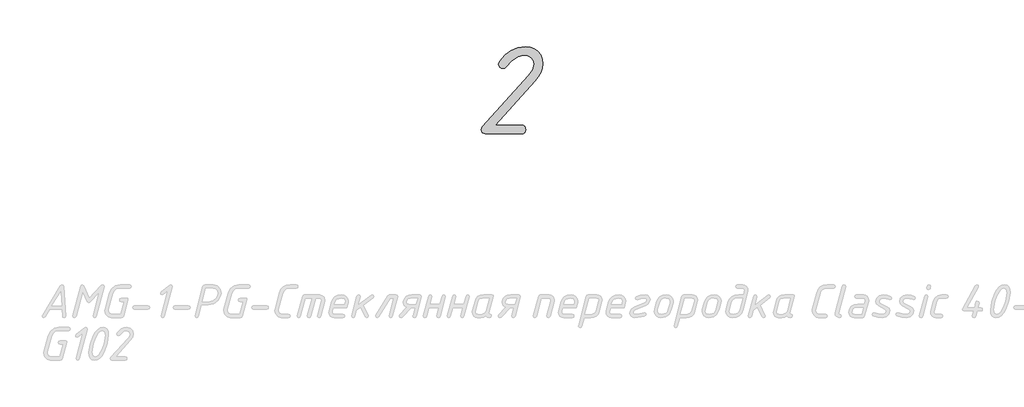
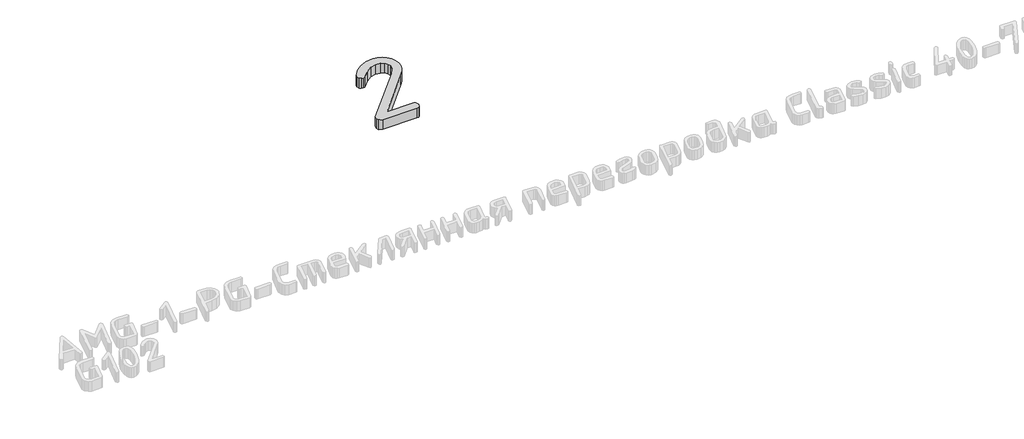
# One storey, part 14 of 22: 1 proxy.
"""IFC4 building model written with IfcOpenShell, lengths in millimetres."""

import ifcopenshell
import ifcopenshell.guid

model = None  # the IFC model being written
_history = None  # IfcOwnerHistory: only IFC2X3 demands one
_inside = {}  # id of a spatial element -> (the spatial element, [elements in it])
_under = {}  # id of a project, library or spatial element -> (it, [spatial elements below it])
_declared = {}  # id of a project -> (the project, [libraries it declares])
_typed = {}  # id of a type object -> (the type object, [elements of that type])
_made_of = {}  # id of a material, layer set ... -> (it, [elements and type objects made of it])


def new_model(schema):
    """Start an empty IFC model of exactly this schema.

    Asked for "IFC4X3", IfcOpenShell would pick the latest addendum, in which some entities
    have other attributes; the version numbers below select the first issue.
    IFC2X3 requires an IfcOwnerHistory on every rooted entity: one is made here for all.
    """
    global model, _history
    if schema == "IFC4X3":
        model = ifcopenshell.file(schema_version=(4, 3, 0, 0))
    else:
        model = ifcopenshell.file(schema=schema)
    _inside.clear()
    _under.clear()
    _declared.clear()
    _typed.clear()
    _made_of.clear()
    _history = None
    if model.schema == "IFC2X3":
        org = make("IfcOrganization", Name="unknown")
        user = make(
            "IfcPersonAndOrganization",
            ThePerson=make("IfcPerson", FamilyName="unknown"),
            TheOrganization=org,
        )
        app = make(
            "IfcApplication",
            ApplicationDeveloper=org,
            Version="unknown",
            ApplicationFullName="unknown",
            ApplicationIdentifier="unknown",
        )
        _history = make(
            "IfcOwnerHistory",
            OwningUser=user,
            OwningApplication=app,
            ChangeAction="ADDED",
            CreationDate=0,
        )
    return model


def make(cls, **values):
    """One entity of the class cls with the attributes given. An attribute that is None is left unset."""
    return model.create_entity(
        cls, **{name: value for name, value in values.items() if value is not None}
    )


def rooted(cls, **values):
    """An entity with a GlobalId (a new one), such as an element, a storey or a relation."""
    return make(cls, GlobalId=ifcopenshell.guid.new(), OwnerHistory=_history, **values)


def si_unit(unit_type, name, prefix=None):
    """IfcSIUnit, for example si_unit("LENGTHUNIT", "METRE", prefix="MILLI")."""
    return make("IfcSIUnit", UnitType=unit_type, Prefix=prefix, Name=name)


def assignment(units):
    """IfcUnitAssignment: the units of a project."""
    return None if units is None else make("IfcUnitAssignment", Units=units)


def point(xyz):
    """IfcCartesianPoint."""
    return None if xyz is None else make("IfcCartesianPoint", Coordinates=xyz)


def direction(xyz):
    """IfcDirection."""
    return None if xyz is None else make("IfcDirection", DirectionRatios=xyz)


def frame(location, z_axis=None, x_axis=None):
    """IfcAxis2Placement3D, a coordinate frame: its origin and axes. An axis left out is left unset."""
    return make(
        "IfcAxis2Placement3D",
        Location=point(location),
        Axis=direction(z_axis),
        RefDirection=direction(x_axis),
    )


def origin():
    """The frame at (0, 0, 0) with its axes left unset."""
    return frame((0.0, 0.0, 0.0))


def origin_with_axes():
    """The frame at (0, 0, 0) with the z axis (0, 0, 1) and the x axis (1, 0, 0) written out."""
    return frame((0.0, 0.0, 0.0), z_axis=(0.0, 0.0, 1.0), x_axis=(1.0, 0.0, 0.0))


def place(relative_to, where):
    """IfcLocalPlacement: puts the frame where relative to a parent placement (None: the world)."""
    return make(
        "IfcLocalPlacement", PlacementRelTo=relative_to, RelativePlacement=where
    )


def context(
    kind, dimensions, precision=None, world=None, true_north=None, identifier=None
):
    """IfcGeometricRepresentationContext, for example the 3D "Model" context."""
    return make(
        "IfcGeometricRepresentationContext",
        ContextIdentifier=identifier,
        ContextType=kind,
        CoordinateSpaceDimension=dimensions,
        Precision=precision,
        WorldCoordinateSystem=world,
        TrueNorth=true_north,
    )


def project(units=None, contexts=None):
    """IfcProject with its units and contexts."""
    return rooted(
        "IfcProject",
        Name="project",
        RepresentationContexts=contexts,
        UnitsInContext=assignment(units),
    )


def spatial(cls, under=None, at=None, **own):
    """A site, building, storey or space (cls), placed at a placement, below another one or the project."""
    s = rooted(cls, ObjectPlacement=at, **own)
    if under is not None:
        _under.setdefault(under.id(), (under, []))[1].append(s)
    return s


def polyline(points):
    """IfcPolyline through the points."""
    return make("IfcPolyline", Points=[point(p) for p in points])


def outline(outer, holes=None, kind="AREA"):
    """IfcArbitraryClosedProfileDef: a profile drawn as a closed curve; with holes, ...WithVoids."""
    if holes is None:
        return make("IfcArbitraryClosedProfileDef", ProfileType=kind, OuterCurve=outer)
    return make(
        "IfcArbitraryProfileDefWithVoids",
        ProfileType=kind,
        OuterCurve=outer,
        InnerCurves=holes,
    )


def extrude(swept, where, along, depth):
    """IfcExtrudedAreaSolid: the profile swept, set in the frame where, extruded along a direction by depth."""
    return make(
        "IfcExtrudedAreaSolid",
        SweptArea=swept,
        Position=where,
        ExtrudedDirection=direction(along),
        Depth=depth,
    )


def shape(context_of_items, identifier, shape_type, items):
    """IfcShapeRepresentation: the items that make up one representation, for example the "Body"."""
    return make(
        "IfcShapeRepresentation",
        ContextOfItems=context_of_items,
        RepresentationIdentifier=identifier,
        RepresentationType=shape_type,
        Items=items,
    )


def made_of(thing, what):
    """Note that an element or type object is made of a material, layer set ...; save() writes the relation."""
    if what is not None:
        _made_of.setdefault(what.id(), (what, []))[1].append(thing)
    return thing


def element(
    cls,
    number,
    at=None,
    inside=None,
    cuts=None,
    type_object=None,
    material=None,
    context=None,
    identifier="Body",
    shape_type=None,
    held_by="IfcProductDefinitionShape",
    body=None,
    shapes=None,
    **own,
):
    """One element of the class cls, such as IfcWall. Its Tag is "e" and its number.

    at: its placement. inside: the storey or other place that contains it. cuts: it is an
    opening in that element (IfcRelVoidsElement). A single representation is given by context,
    identifier, shape_type and body (its items); several are given by shapes. held_by: the class
    of the entity that holds the representations. save() writes the other relations.
    """
    e = rooted(cls, Tag="e%d" % number, ObjectPlacement=at, **own)
    if body is not None:
        shapes = [shape(context, identifier, shape_type, body)]
    if shapes is not None:
        e.Representation = make(held_by, Representations=shapes)
    if inside is not None:
        _inside.setdefault(inside.id(), (inside, []))[1].append(e)
    if cuts is not None:
        rooted(
            "IfcRelVoidsElement", RelatingBuildingElement=cuts, RelatedOpeningElement=e
        )
    if type_object is not None:
        _typed.setdefault(type_object.id(), (type_object, []))[1].append(e)
    return made_of(e, material)


def aggregate(whole, parts):
    """IfcRelAggregates: a whole, such as a stair, and the parts it consists of."""
    return rooted("IfcRelAggregates", RelatingObject=whole, RelatedObjects=parts)


def save(model, path):
    """Write the relations noted so far, then the file.

    IfcRelAggregates (storeys below a building ...), IfcRelContainedInSpatialStructure (elements
    in a storey), IfcRelDefinesByType, IfcRelAssociatesMaterial and IfcRelDeclares: one each for
    every whole, place, type object, material and project.
    """
    for whole, parts in _under.values():
        aggregate(whole, parts)
    for where, things in _inside.values():
        rooted(
            "IfcRelContainedInSpatialStructure",
            RelatedElements=things,
            RelatingStructure=where,
        )
    for kind, things in _typed.values():
        rooted("IfcRelDefinesByType", RelatedObjects=things, RelatingType=kind)
    for what, things in _made_of.values():
        rooted("IfcRelAssociatesMaterial", RelatedObjects=things, RelatingMaterial=what)
    for by, libraries in _declared.values():
        rooted("IfcRelDeclares", RelatingContext=by, RelatedDefinitions=libraries)
    model.write(path)


model = new_model("IFC4")

# Units and contexts
model_context = context("Model", 3, world=origin())
ifc_project = project(units=[si_unit("LENGTHUNIT", "METRE", prefix="MILLI")], contexts=[model_context])

# Site, building, storey
site = spatial("IfcSite", under=ifc_project)
building = spatial("IfcBuilding", under=site)
storey = spatial("IfcBuildingStorey", under=building, Name="Уровень 1", Elevation=0.0)

# Proxy
placement = place(None, origin())
element("IfcBuildingElementProxy", 1, Name="100", ObjectType="100", at=placement, inside=storey, context=model_context, shape_type="SweptSolid", body=[
    extrude(outline(polyline([(-34110.5937312, -8779.4855473), (-34117.1724283, -8784.9189651), (-34125.4024583, -8786.7301044), (-34133.0332143, -8785.2119436), (-34139.5186911, -8780.6574609), (-34145.4315282, -8766.7010346), (-34140.5307983, -8753.7034467), (-34114.1893753, -8724.2724332), (-34089.0731348, -8704.1634602), (-34057.165122, -8690.420109), (-34020.8890673, -8685.838992), (-33999.6081806, -8688.2693811), (-33981.0440028, -8695.5605485), (-33965.196534, -8707.7124941), (-33952.0657741, -8724.725218), (-33943.6759377, -8744.0085246), (-33940.8793255, -8765.2095081), (-33943.1632255, -8785.671387), (-33950.0149252, -8805.9335078), (-33961.4344248, -8825.9958707), (-33977.4217242, -8845.8584755), (-34160.2402553, -9047.21455), (-34040.2789115, -9047.21455), (-34031.5161934, -9048.4930013), (-34025.2571091, -9052.3283551), (-34020.2498417, -9067.6697702), (-34025.2571091, -9083.0111854), (-34031.5161934, -9086.8465392), (-34040.2789115, -9088.1249905), (-34205.7318129, -9088.1249905), (-34220.6737121, -9083.1177231), (-34225.6543451, -9068.0959207), (-34220.5405401, -9054.3525696), (-34006.2934153, -8818.5848485), (-33987.9156784, -8792.1368879), (-33981.7897661, -8766.9141098), (-33984.9126496, -8749.3420635), (-33994.2813003, -8736.7906018), (-34009.8957181, -8729.2597249), (-34031.7559031, -8726.7494325), (-34056.9786812, -8733.6477425), (-34086.6227699, -8754.3426724), (-34110.5937312, -8779.4855473)])), origin_with_axes(), (0.0, 0.0, 1.0), 50.0),
])

save(model, "model.ifc")
